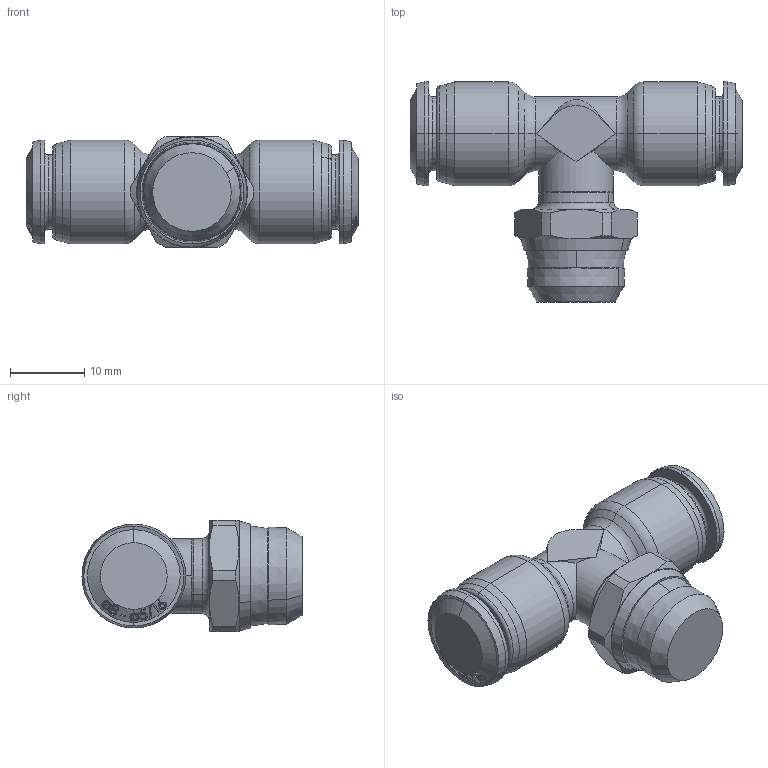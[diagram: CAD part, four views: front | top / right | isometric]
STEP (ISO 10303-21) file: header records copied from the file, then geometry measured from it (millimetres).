
FILE_DESCRIPTION (( 'STEP AP203' ), '1' );
FILE_NAME ('8521100009A.step', '2012-10-31T14:29:58', ( '' ), ( '' ), 'SwSTEP 2.0', 'SolidWorks 2012', '' );
FILE_SCHEMA (( 'CONFIG_CONTROL_DESIGN' ));
Length unit declared in the file: millimetre
Products named in the file (1): 8521100009A
Bounding box: 44.8 x 29.7 x 15.06 mm (x, y, z)
Volume: 7826.4 mm3; surface area: 3210.3 mm2
Topology: 1 solids, 1 shells, 350 faces, 876 edges, 560 vertices
Faces by surface type: bspline 194, cone 86, plane 27, cylinder 23, torus 20
Entity records: 20957 total; most frequent: CARTESIAN_POINT 14299, ORIENTED_EDGE 1752, EDGE_CURVE 876, DIRECTION 680, B_SPLINE_CURVE_WITH_KNOTS 632, VERTEX_POINT 560, EDGE_LOOP 382, FACE_OUTER_BOUND 350
